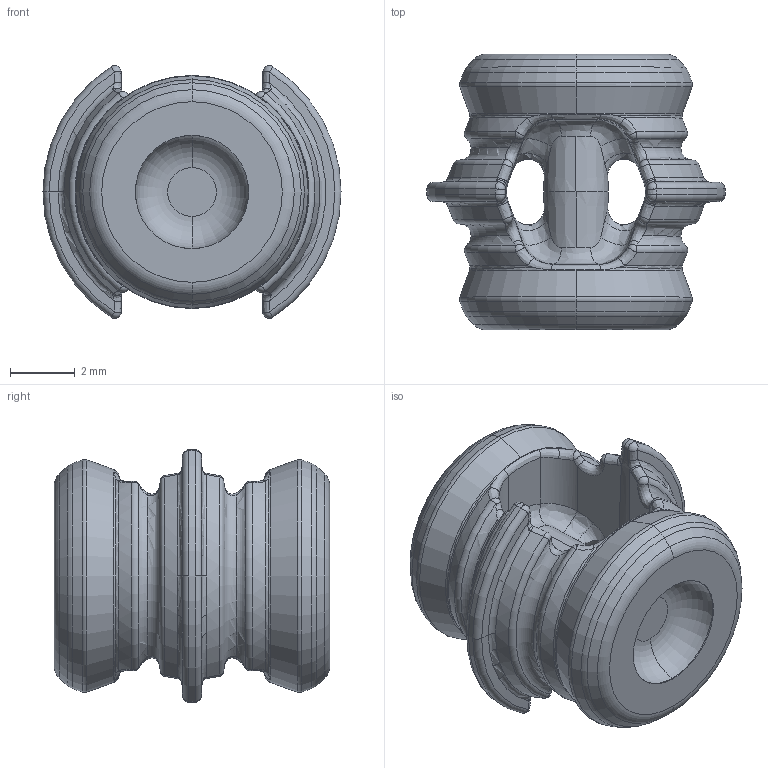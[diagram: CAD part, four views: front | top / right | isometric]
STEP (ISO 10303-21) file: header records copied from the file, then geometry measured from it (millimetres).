
FILE_DESCRIPTION (( 'STEP AP203' ), '1' );
FILE_NAME ('Diva Male 0 mm_customer.STEP', '2022-07-29T11:37:10', ( '' ), ( '' ), 'SwSTEP 2.0', 'SolidWorks 2020', '' );
FILE_SCHEMA (( 'CONFIG_CONTROL_DESIGN' ));
Length unit declared in the file: millimetre
Products named in the file (1): Diva Male 0 mm_customer
Bounding box: 9.2 x 8.5 x 7.79 mm (x, y, z)
Volume: 225.9 mm3; surface area: 362.2 mm2
Topology: 1 solids, 1 shells, 241 faces, 603 edges, 346 vertices
Faces by surface type: bspline 100, torus 52, cone 38, sphere 24, plane 16, cylinder 11
Entity records: 9308 total; most frequent: CARTESIAN_POINT 4565, ORIENTED_EDGE 1110, DIRECTION 831, EDGE_CURVE 555, AXIS2_PLACEMENT_3D 394, VERTEX_POINT 314, B_SPLINE_CURVE_WITH_KNOTS 252, CIRCLE 252
